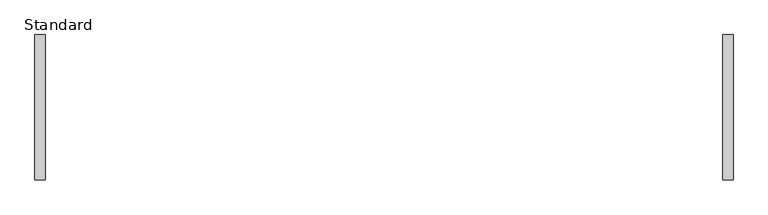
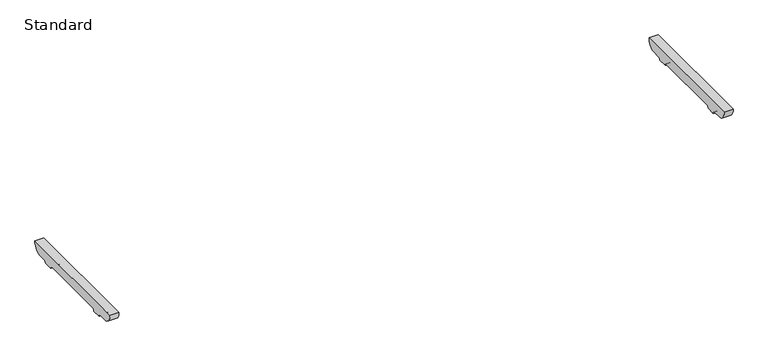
"""IFC4 building model written with IfcOpenShell, lengths in millimetres: furniture geometry, BDG_BossDesign_Tbls_AgentTables4Legs_Nested : Standard."""

from ifc_helpers import new_model, si_unit, point, frame, frame_2d, origin, place, context, project, spatial, polyline, circle_curve, trimmed, segment, composite_curve, outline, extrude, source, transform, mapped, element, save


def standard_bade355e(model_context):
    return source(origin(), model_context, "Body", "SweptSolid", [
        extrude(outline(composite_curve([segment(polyline([(280.5450184, 672.0), (242.7000122, 672.0)]), True, "CONTINUOUS"), segment(trimmed(circle_curve(frame_2d((242.7000122, 660.0)), 12.0), [point((242.7000122, 672.0))], [point((230.7000122, 660.0))], True, "CARTESIAN"), True, "CONTINUOUS"), segment(polyline([(230.7000122, 660.0), (185.7000122, 660.0)]), True, "CONTINUOUS"), segment(trimmed(circle_curve(frame_2d((173.7000122, 660.0)), 12.0), [point((185.7000122, 660.0))], [point((173.7000122, 672.0))], True, "CARTESIAN"), True, "CONTINUOUS"), segment(polyline([(173.7000122, 672.0), (-173.7000122, 672.0)]), True, "CONTINUOUS"), segment(trimmed(circle_curve(frame_2d((-173.7000122, 660.0)), 12.0), [point((-173.7000122, 672.0))], [point((-185.7000122, 660.0))], True, "CARTESIAN"), True, "CONTINUOUS"), segment(polyline([(-185.7000122, 660.0), (-230.7000122, 660.0)]), True, "CONTINUOUS"), segment(trimmed(circle_curve(frame_2d((-242.7000122, 660.0)), 12.0), [point((-230.7000122, 660.0))], [point((-242.7000122, 672.0))], True, "CARTESIAN"), True, "CONTINUOUS"), segment(polyline([(-242.7000122, 672.0), (-280.5450184, 672.0)]), True, "CONTINUOUS"), segment(trimmed(circle_curve(frame_2d((-278.2220439, 716.5514119)), 44.6119324), [point((-280.5450184, 672.0))], [point((-322.5, 722.0))], False, "CARTESIAN"), True, "CONTINUOUS"), segment(polyline([(-322.5, 722.0), (322.5, 722.0)]), True, "CONTINUOUS"), segment(trimmed(circle_curve(frame_2d((278.2220439, 716.5514119)), 44.6119324), [point((322.5, 722.0))], [point((280.5450184, 672.0))], False, "CARTESIAN"), True, "CONTINUOUS")], self_intersect=False)), frame((1505.0, 0.0, 0.0), z_axis=(1.0, 0.0, 0.0), x_axis=(0.0, 1.0, 0.0)), (0.0, 0.0, 1.0), 45.0),
        extrude(outline(composite_curve([segment(polyline([(280.5450184, 672.0), (242.7000122, 672.0)]), True, "CONTINUOUS"), segment(trimmed(circle_curve(frame_2d((242.7000122, 660.0)), 12.0), [point((242.7000122, 672.0))], [point((230.7000122, 660.0))], True, "CARTESIAN"), True, "CONTINUOUS"), segment(polyline([(230.7000122, 660.0), (185.7000122, 660.0)]), True, "CONTINUOUS"), segment(trimmed(circle_curve(frame_2d((173.7000122, 660.0)), 12.0), [point((185.7000122, 660.0))], [point((173.7000122, 672.0))], True, "CARTESIAN"), True, "CONTINUOUS"), segment(polyline([(173.7000122, 672.0), (-173.7000122, 672.0)]), True, "CONTINUOUS"), segment(trimmed(circle_curve(frame_2d((-173.7000122, 660.0)), 12.0), [point((-173.7000122, 672.0))], [point((-185.7000122, 660.0))], True, "CARTESIAN"), True, "CONTINUOUS"), segment(polyline([(-185.7000122, 660.0), (-230.7000122, 660.0)]), True, "CONTINUOUS"), segment(trimmed(circle_curve(frame_2d((-242.7000122, 660.0)), 12.0), [point((-230.7000122, 660.0))], [point((-242.7000122, 672.0))], True, "CARTESIAN"), True, "CONTINUOUS"), segment(polyline([(-242.7000122, 672.0), (-280.5450184, 672.0)]), True, "CONTINUOUS"), segment(trimmed(circle_curve(frame_2d((-278.2220439, 716.5514119)), 44.6119324), [point((-280.5450184, 672.0))], [point((-322.5, 722.0))], False, "CARTESIAN"), True, "CONTINUOUS"), segment(polyline([(-322.5, 722.0), (322.5, 722.0)]), True, "CONTINUOUS"), segment(trimmed(circle_curve(frame_2d((278.2220439, 716.5514119)), 44.6119324), [point((322.5, 722.0))], [point((280.5450184, 672.0))], False, "CARTESIAN"), True, "CONTINUOUS")], self_intersect=False)), frame((-1550.0, 0.0, 0.0), z_axis=(1.0, 0.0, 0.0), x_axis=(0.0, 1.0, 0.0)), (0.0, 0.0, 1.0), 45.0),
    ])


if __name__ == "__main__":
    model = new_model("IFC4")
    model_context = context("Model", 3, world=origin())
    ifc_project = project(units=[si_unit("LENGTHUNIT", "METRE", prefix="MILLI")], contexts=[model_context])
    site = spatial("IfcSite", under=ifc_project)
    building = spatial("IfcBuilding", under=site)
    placement = place(None, origin())
    standard_shape = standard_bade355e(model_context)
    element("IfcFurniture", 1, ObjectType="BDG_BossDesign_Tbls_AgentTables4Legs_Nested : Standard", at=placement, inside=building, context=model_context, shape_type="MappedRepresentation", body=[
        mapped(standard_shape, transform((0.0, 0.0, 0.0), x_axis=(1.0, 0.0, 0.0), y_axis=(0.0, 1.0, 0.0), z_axis=(0.0, 0.0, 1.0))),
    ])
    save(model, "model.ifc")
